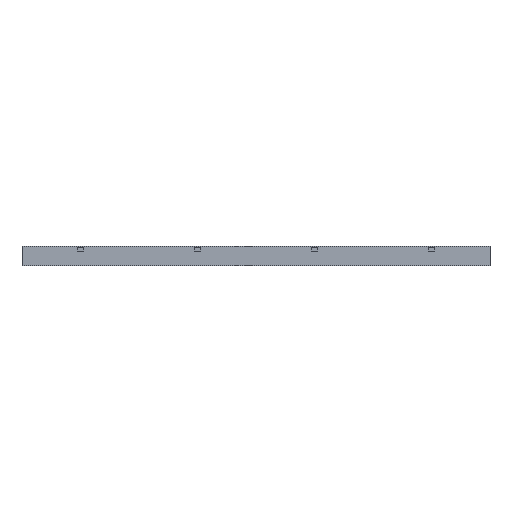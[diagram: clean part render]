
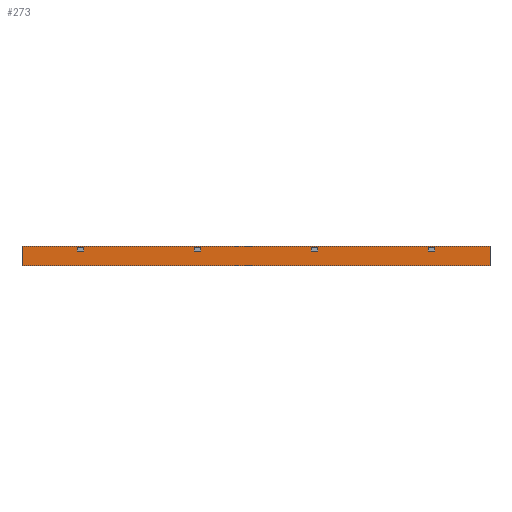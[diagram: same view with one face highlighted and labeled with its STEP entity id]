
A CAD part, left-side view. The second image highlights one B-rep face of the part: STEP entity #273.
In plain terms, the highlighted planar face has unit normal (-1, 0, 0).
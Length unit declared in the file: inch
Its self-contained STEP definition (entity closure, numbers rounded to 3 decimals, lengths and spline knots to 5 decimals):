
#18=FACE_BOUND('',#830,.T.);
#19=FACE_BOUND('',#831,.T.);
#20=FACE_BOUND('',#832,.T.);
#21=FACE_BOUND('',#833,.T.);
#273=ADVANCED_FACE('',(#549,#18,#19,#20,#21),#4781,.T.);
#549=FACE_OUTER_BOUND('',#829,.T.);
#829=EDGE_LOOP('',(#1702,#1703,#1704,#1705));
#830=EDGE_LOOP('',(#1706,#1707,#1708,#1709));
#831=EDGE_LOOP('',(#1710,#1711,#1712,#1713));
#832=EDGE_LOOP('',(#1714,#1715,#1716,#1717));
#833=EDGE_LOOP('',(#1718,#1719,#1720,#1721));
#1702=ORIENTED_EDGE('',*,*,#3046,.T.);
#1703=ORIENTED_EDGE('',*,*,#3047,.T.);
#1704=ORIENTED_EDGE('',*,*,#3048,.T.);
#1705=ORIENTED_EDGE('',*,*,#3049,.T.);
#1706=ORIENTED_EDGE('',*,*,#2684,.F.);
#1707=ORIENTED_EDGE('',*,*,#2714,.F.);
#1708=ORIENTED_EDGE('',*,*,#2651,.F.);
#1709=ORIENTED_EDGE('',*,*,#2614,.F.);
#1710=ORIENTED_EDGE('',*,*,#2840,.F.);
#1711=ORIENTED_EDGE('',*,*,#2870,.F.);
#1712=ORIENTED_EDGE('',*,*,#2807,.F.);
#1713=ORIENTED_EDGE('',*,*,#2770,.F.);
#1714=ORIENTED_EDGE('',*,*,#2996,.F.);
#1715=ORIENTED_EDGE('',*,*,#3026,.F.);
#1716=ORIENTED_EDGE('',*,*,#2963,.F.);
#1717=ORIENTED_EDGE('',*,*,#2926,.F.);
#1718=ORIENTED_EDGE('',*,*,#3053,.T.);
#1719=ORIENTED_EDGE('',*,*,#3050,.T.);
#1720=ORIENTED_EDGE('',*,*,#3051,.T.);
#1721=ORIENTED_EDGE('',*,*,#3052,.T.);
#2614=EDGE_CURVE('',#4150,#4151,#3382,.T.);
#2651=EDGE_CURVE('',#4151,#4176,#3419,.T.);
#2684=EDGE_CURVE('',#4198,#4150,#3452,.T.);
#2714=EDGE_CURVE('',#4176,#4198,#3482,.T.);
#2770=EDGE_CURVE('',#4254,#4255,#3538,.T.);
#2807=EDGE_CURVE('',#4255,#4280,#3575,.T.);
#2840=EDGE_CURVE('',#4302,#4254,#3608,.T.);
#2870=EDGE_CURVE('',#4280,#4302,#3638,.T.);
#2926=EDGE_CURVE('',#4358,#4359,#3694,.T.);
#2963=EDGE_CURVE('',#4359,#4384,#3731,.T.);
#2996=EDGE_CURVE('',#4406,#4358,#3764,.T.);
#3026=EDGE_CURVE('',#4384,#4406,#3794,.T.);
#3046=EDGE_CURVE('',#4426,#4427,#3814,.T.);
#3047=EDGE_CURVE('',#4427,#4428,#3815,.T.);
#3048=EDGE_CURVE('',#4428,#4429,#3816,.T.);
#3049=EDGE_CURVE('',#4429,#4426,#3817,.T.);
#3050=EDGE_CURVE('',#4430,#4431,#3818,.T.);
#3051=EDGE_CURVE('',#4431,#4432,#3819,.T.);
#3052=EDGE_CURVE('',#4432,#4433,#3820,.T.);
#3053=EDGE_CURVE('',#4433,#4430,#3821,.T.);
#3382=B_SPLINE_CURVE_WITH_KNOTS('',1,(#6419,#6420),.UNSPECIFIED.,.F.,.F.,
(2,2),(0.,1.25),.UNSPECIFIED.);
#3419=B_SPLINE_CURVE_WITH_KNOTS('',1,(#6493,#6494),.UNSPECIFIED.,.F.,.F.,
(2,2),(0.,0.75),.UNSPECIFIED.);
#3452=B_SPLINE_CURVE_WITH_KNOTS('',1,(#6559,#6560),.UNSPECIFIED.,.F.,.F.,
(2,2),(0.,0.75),.UNSPECIFIED.);
#3482=B_SPLINE_CURVE_WITH_KNOTS('',1,(#6619,#6620),.UNSPECIFIED.,.F.,.F.,
(2,2),(0.,1.25),.UNSPECIFIED.);
#3538=B_SPLINE_CURVE_WITH_KNOTS('',1,(#6731,#6732),.UNSPECIFIED.,.F.,.F.,
(2,2),(0.,1.25),.UNSPECIFIED.);
#3575=B_SPLINE_CURVE_WITH_KNOTS('',1,(#6805,#6806),.UNSPECIFIED.,.F.,.F.,
(2,2),(0.,0.75),.UNSPECIFIED.);
#3608=B_SPLINE_CURVE_WITH_KNOTS('',1,(#6871,#6872),.UNSPECIFIED.,.F.,.F.,
(2,2),(0.,0.75),.UNSPECIFIED.);
#3638=B_SPLINE_CURVE_WITH_KNOTS('',1,(#6931,#6932),.UNSPECIFIED.,.F.,.F.,
(2,2),(0.,1.25),.UNSPECIFIED.);
#3694=B_SPLINE_CURVE_WITH_KNOTS('',1,(#7043,#7044),.UNSPECIFIED.,.F.,.F.,
(2,2),(0.,1.25),.UNSPECIFIED.);
#3731=B_SPLINE_CURVE_WITH_KNOTS('',1,(#7117,#7118),.UNSPECIFIED.,.F.,.F.,
(2,2),(0.,0.75),.UNSPECIFIED.);
#3764=B_SPLINE_CURVE_WITH_KNOTS('',1,(#7183,#7184),.UNSPECIFIED.,.F.,.F.,
(2,2),(0.,0.75),.UNSPECIFIED.);
#3794=B_SPLINE_CURVE_WITH_KNOTS('',1,(#7243,#7244),.UNSPECIFIED.,.F.,.F.,
(2,2),(0.,1.25),.UNSPECIFIED.);
#3814=B_SPLINE_CURVE_WITH_KNOTS('',1,(#7283,#7284),.UNSPECIFIED.,.F.,.F.,
(2,2),(0.,96.),.UNSPECIFIED.);
#3815=B_SPLINE_CURVE_WITH_KNOTS('',1,(#7285,#7286),.UNSPECIFIED.,.F.,.F.,
(2,2),(0.,4.),.UNSPECIFIED.);
#3816=B_SPLINE_CURVE_WITH_KNOTS('',1,(#7287,#7288),.UNSPECIFIED.,.F.,.F.,
(2,2),(0.,96.),.UNSPECIFIED.);
#3817=B_SPLINE_CURVE_WITH_KNOTS('',1,(#7289,#7290),.UNSPECIFIED.,.F.,.F.,
(2,2),(0.,4.),.UNSPECIFIED.);
#3818=B_SPLINE_CURVE_WITH_KNOTS('',1,(#7291,#7292),.UNSPECIFIED.,.F.,.F.,
(2,2),(0.,1.25),.UNSPECIFIED.);
#3819=B_SPLINE_CURVE_WITH_KNOTS('',1,(#7293,#7294),.UNSPECIFIED.,.F.,.F.,
(2,2),(0.,0.75),.UNSPECIFIED.);
#3820=B_SPLINE_CURVE_WITH_KNOTS('',1,(#7295,#7296),.UNSPECIFIED.,.F.,.F.,
(2,2),(0.,1.25),.UNSPECIFIED.);
#3821=B_SPLINE_CURVE_WITH_KNOTS('',1,(#7297,#7298),.UNSPECIFIED.,.F.,.F.,
(2,2),(0.,0.75),.UNSPECIFIED.);
#4150=VERTEX_POINT('',#5863);
#4151=VERTEX_POINT('',#5864);
#4176=VERTEX_POINT('',#5889);
#4198=VERTEX_POINT('',#5911);
#4254=VERTEX_POINT('',#5967);
#4255=VERTEX_POINT('',#5968);
#4280=VERTEX_POINT('',#5993);
#4302=VERTEX_POINT('',#6015);
#4358=VERTEX_POINT('',#6071);
#4359=VERTEX_POINT('',#6072);
#4384=VERTEX_POINT('',#6097);
#4406=VERTEX_POINT('',#6119);
#4426=VERTEX_POINT('',#6139);
#4427=VERTEX_POINT('',#6140);
#4428=VERTEX_POINT('',#6141);
#4429=VERTEX_POINT('',#6142);
#4430=VERTEX_POINT('',#6143);
#4431=VERTEX_POINT('',#6144);
#4432=VERTEX_POINT('',#6145);
#4433=VERTEX_POINT('',#6146);
#4781=PLANE('',#5148);
#5148=AXIS2_PLACEMENT_3D('',#5706,#5427,$);
#5427=DIRECTION('',(-1.,0.,0.));
#5706=CARTESIAN_POINT('',(-21.25,57.60472,2.40472));
#5863=CARTESIAN_POINT('',(-21.25,35.375,1.75));
#5864=CARTESIAN_POINT('',(-21.25,36.625,1.75));
#5889=CARTESIAN_POINT('',(-21.25,36.625,1.));
#5911=CARTESIAN_POINT('',(-21.25,35.375,1.));
#5967=CARTESIAN_POINT('',(-21.25,11.375,1.75));
#5968=CARTESIAN_POINT('',(-21.25,12.625,1.75));
#5993=CARTESIAN_POINT('',(-21.25,12.625,1.));
#6015=CARTESIAN_POINT('',(-21.25,11.375,1.));
#6071=CARTESIAN_POINT('',(-21.25,-12.625,1.75));
#6072=CARTESIAN_POINT('',(-21.25,-11.375,1.75));
#6097=CARTESIAN_POINT('',(-21.25,-11.375,1.));
#6119=CARTESIAN_POINT('',(-21.25,-12.625,1.));
#6139=CARTESIAN_POINT('',(-21.25,48.,-2.));
#6140=CARTESIAN_POINT('',(-21.25,-48.,-2.));
#6141=CARTESIAN_POINT('',(-21.25,-48.,2.));
#6142=CARTESIAN_POINT('',(-21.25,48.,2.));
#6143=CARTESIAN_POINT('',(-21.25,-35.375,1.75));
#6144=CARTESIAN_POINT('',(-21.25,-36.625,1.75));
#6145=CARTESIAN_POINT('',(-21.25,-36.625,1.));
#6146=CARTESIAN_POINT('',(-21.25,-35.375,1.));
#6419=CARTESIAN_POINT('',(-21.25,35.375,1.75));
#6420=CARTESIAN_POINT('',(-21.25,36.625,1.75));
#6493=CARTESIAN_POINT('',(-21.25,36.625,1.75));
#6494=CARTESIAN_POINT('',(-21.25,36.625,1.));
#6559=CARTESIAN_POINT('',(-21.25,35.375,1.));
#6560=CARTESIAN_POINT('',(-21.25,35.375,1.75));
#6619=CARTESIAN_POINT('',(-21.25,36.625,1.));
#6620=CARTESIAN_POINT('',(-21.25,35.375,1.));
#6731=CARTESIAN_POINT('',(-21.25,11.375,1.75));
#6732=CARTESIAN_POINT('',(-21.25,12.625,1.75));
#6805=CARTESIAN_POINT('',(-21.25,12.625,1.75));
#6806=CARTESIAN_POINT('',(-21.25,12.625,1.));
#6871=CARTESIAN_POINT('',(-21.25,11.375,1.));
#6872=CARTESIAN_POINT('',(-21.25,11.375,1.75));
#6931=CARTESIAN_POINT('',(-21.25,12.625,1.));
#6932=CARTESIAN_POINT('',(-21.25,11.375,1.));
#7043=CARTESIAN_POINT('',(-21.25,-12.625,1.75));
#7044=CARTESIAN_POINT('',(-21.25,-11.375,1.75));
#7117=CARTESIAN_POINT('',(-21.25,-11.375,1.75));
#7118=CARTESIAN_POINT('',(-21.25,-11.375,1.));
#7183=CARTESIAN_POINT('',(-21.25,-12.625,1.));
#7184=CARTESIAN_POINT('',(-21.25,-12.625,1.75));
#7243=CARTESIAN_POINT('',(-21.25,-11.375,1.));
#7244=CARTESIAN_POINT('',(-21.25,-12.625,1.));
#7283=CARTESIAN_POINT('',(-21.25,48.,-2.));
#7284=CARTESIAN_POINT('',(-21.25,-48.,-2.));
#7285=CARTESIAN_POINT('',(-21.25,-48.,-2.));
#7286=CARTESIAN_POINT('',(-21.25,-48.,2.));
#7287=CARTESIAN_POINT('',(-21.25,-48.,2.));
#7288=CARTESIAN_POINT('',(-21.25,48.,2.));
#7289=CARTESIAN_POINT('',(-21.25,48.,2.));
#7290=CARTESIAN_POINT('',(-21.25,48.,-2.));
#7291=CARTESIAN_POINT('',(-21.25,-35.375,1.75));
#7292=CARTESIAN_POINT('',(-21.25,-36.625,1.75));
#7293=CARTESIAN_POINT('',(-21.25,-36.625,1.75));
#7294=CARTESIAN_POINT('',(-21.25,-36.625,1.));
#7295=CARTESIAN_POINT('',(-21.25,-36.625,1.));
#7296=CARTESIAN_POINT('',(-21.25,-35.375,1.));
#7297=CARTESIAN_POINT('',(-21.25,-35.375,1.));
#7298=CARTESIAN_POINT('',(-21.25,-35.375,1.75));
